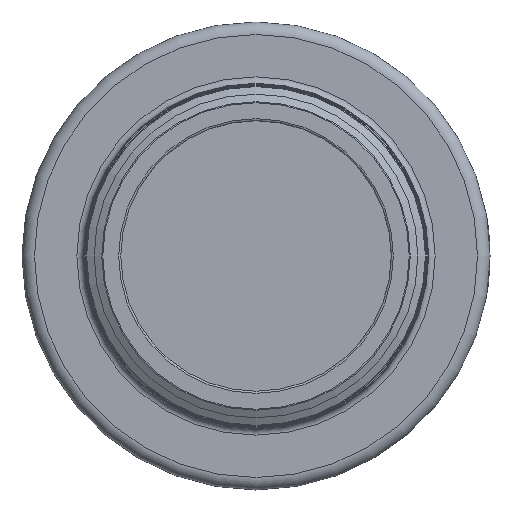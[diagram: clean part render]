
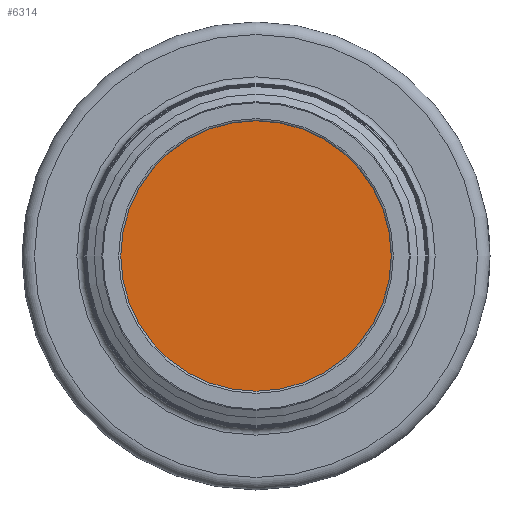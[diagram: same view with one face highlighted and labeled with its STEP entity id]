
A CAD part, left-side view. The second image highlights one B-rep face of the part: STEP entity #6314.
In plain terms, the highlighted planar face has unit normal (-1, 0, 0).
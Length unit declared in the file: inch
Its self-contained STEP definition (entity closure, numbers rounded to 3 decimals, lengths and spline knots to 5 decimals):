
#816=PLANE('',#6764);
#2049=ORIENTED_EDGE('',*,*,#2064,.T.);
#2064=EDGE_CURVE('',#2653,#2653,#3076,.F.);
#2653=VERTEX_POINT('',#7901);
#3076=CIRCLE('',#6329,0.65);
#3628=EDGE_LOOP('',(#2049));
#4020=FACE_BOUND('',#3628,.T.);
#6314=ADVANCED_FACE('',(#4020),#816,.T.);
#6329=AXIS2_PLACEMENT_3D('',#7900,#6784,#6785);
#6764=AXIS2_PLACEMENT_3D('',#10505,#7868,#7869);
#6784=DIRECTION('',(1.,0.,0.));
#6785=DIRECTION('',(0.,0.,-1.));
#7868=DIRECTION('',(-1.,0.,0.));
#7869=DIRECTION('',(0.,0.,1.));
#7900=CARTESIAN_POINT('',(0.20491,0.,0.));
#7901=CARTESIAN_POINT('',(0.20491,0.,-0.65));
#10505=CARTESIAN_POINT('',(0.20491,0.,0.));
